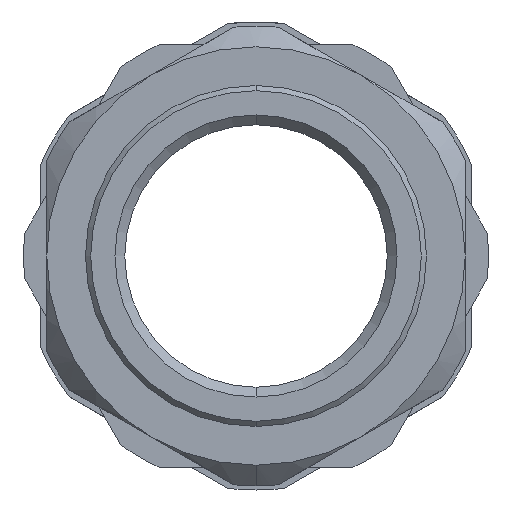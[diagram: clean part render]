
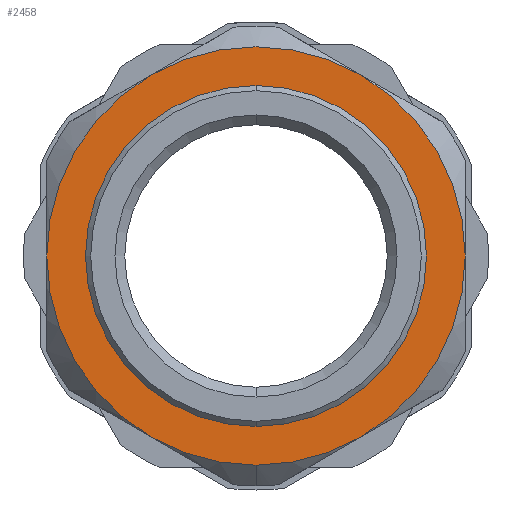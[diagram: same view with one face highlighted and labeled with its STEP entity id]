
A CAD part, front view. The second image highlights one B-rep face of the part: STEP entity #2458.
In plain terms, the highlighted planar face has unit normal (0, -1, 0).
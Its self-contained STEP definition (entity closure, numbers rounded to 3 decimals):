
#85 = VERTEX_POINT ( 'NONE', #425 ) ;
#275 = VERTEX_POINT ( 'NONE', #397 ) ;
#397 = CARTESIAN_POINT ( 'NONE',  ( 0., 1., -20.25 ) ) ;
#425 = CARTESIAN_POINT ( 'NONE',  ( 0., 1., -16.5 ) ) ;
#491 = CARTESIAN_POINT ( 'NONE',  ( 10.125, 1., -17.537 ) ) ;
#504 = CARTESIAN_POINT ( 'NONE',  ( 0., 1., 16.5 ) ) ;
#505 = CARTESIAN_POINT ( 'NONE',  ( -10.125, 1., 17.537 ) ) ;
#512 = CARTESIAN_POINT ( 'NONE',  ( 20.25, 1., 0. ) ) ;
#514 = CARTESIAN_POINT ( 'NONE',  ( -20.25, 1., 0. ) ) ;
#516 = CARTESIAN_POINT ( 'NONE',  ( -10.125, 1., -17.537 ) ) ;
#540 = CARTESIAN_POINT ( 'NONE',  ( 10.125, 1., 17.537 ) ) ;
#549 = VERTEX_POINT ( 'NONE', #540 ) ;
#556 = VERTEX_POINT ( 'NONE', #516 ) ;
#558 = VERTEX_POINT ( 'NONE', #514 ) ;
#560 = VERTEX_POINT ( 'NONE', #512 ) ;
#566 = VERTEX_POINT ( 'NONE', #505 ) ;
#567 = VERTEX_POINT ( 'NONE', #504 ) ;
#582 = VERTEX_POINT ( 'NONE', #491 ) ;
#700 = ORIENTED_EDGE ( 'NONE', *, *, #2383, .F. ) ;
#728 = ORIENTED_EDGE ( 'NONE', *, *, #2381, .T. ) ;
#733 = ORIENTED_EDGE ( 'NONE', *, *, #2382, .T. ) ;
#984 = ORIENTED_EDGE ( 'NONE', *, *, #2378, .T. ) ;
#1002 = EDGE_LOOP ( 'NONE', ( #1021, #700 ) ) ;
#1012 = ORIENTED_EDGE ( 'NONE', *, *, #2380, .T. ) ;
#1016 = ORIENTED_EDGE ( 'NONE', *, *, #2436, .T. ) ;
#1017 = ORIENTED_EDGE ( 'NONE', *, *, #2384, .T. ) ;
#1021 = ORIENTED_EDGE ( 'NONE', *, *, #2339, .F. ) ;
#1041 = ORIENTED_EDGE ( 'NONE', *, *, #2385, .T. ) ;
#1094 = EDGE_LOOP ( 'NONE', ( #733, #984, #728, #1012, #1017, #1016, #1041 ) ) ;
#1178 = AXIS2_PLACEMENT_3D ( 'NONE', #2149, #1941, #1767 ) ;
#1181 = AXIS2_PLACEMENT_3D ( 'NONE', #1764, #1769, #1766 ) ;
#1185 = AXIS2_PLACEMENT_3D ( 'NONE', #1757, #1753, #1752 ) ;
#1188 = AXIS2_PLACEMENT_3D ( 'NONE', #2168, #2151, #2160 ) ;
#1191 = AXIS2_PLACEMENT_3D ( 'NONE', #2157, #2154, #2163 ) ;
#1197 = AXIS2_PLACEMENT_3D ( 'NONE', #1937, #2173, #2172 ) ;
#1204 = AXIS2_PLACEMENT_3D ( 'NONE', #1755, #1930, #1750 ) ;
#1253 = AXIS2_PLACEMENT_3D ( 'NONE', #1466, #1487, #1490 ) ;
#1326 = AXIS2_PLACEMENT_3D ( 'NONE', #1916, #1917, #1918 ) ;
#1332 = FACE_BOUND ( 'NONE', #1002, .T. ) ;
#1333 = FACE_OUTER_BOUND ( 'NONE', #1094, .T. ) ;
#1368 = AXIS2_PLACEMENT_3D ( 'NONE', #2028, #2029, #2026 ) ;
#1466 = CARTESIAN_POINT ( 'NONE',  ( 0., 1., 0. ) ) ;
#1487 = DIRECTION ( 'NONE',  ( 0., -1., 0. ) ) ;
#1490 = DIRECTION ( 'NONE',  ( 0., 0., -1. ) ) ;
#1618 = CIRCLE ( 'NONE', #1368, 20.25 ) ;
#1645 = CIRCLE ( 'NONE', #1178, 20.25 ) ;
#1646 = CIRCLE ( 'NONE', #1181, 20.25 ) ;
#1647 = CIRCLE ( 'NONE', #1185, 16.5 ) ;
#1648 = CIRCLE ( 'NONE', #1204, 20.25 ) ;
#1649 = CIRCLE ( 'NONE', #1191, 20.25 ) ;
#1650 = CIRCLE ( 'NONE', #1188, 20.25 ) ;
#1651 = CIRCLE ( 'NONE', #1197, 20.25 ) ;
#1666 = CIRCLE ( 'NONE', #1253, 16.5 ) ;
#1750 = DIRECTION ( 'NONE',  ( 0., 0., -1. ) ) ;
#1752 = DIRECTION ( 'NONE',  ( 0., 0., -1. ) ) ;
#1753 = DIRECTION ( 'NONE',  ( 0., -1., 0. ) ) ;
#1755 = CARTESIAN_POINT ( 'NONE',  ( 0., 1., 0. ) ) ;
#1757 = CARTESIAN_POINT ( 'NONE',  ( 0., 1., 0. ) ) ;
#1764 = CARTESIAN_POINT ( 'NONE',  ( 0., 1., 0. ) ) ;
#1766 = DIRECTION ( 'NONE',  ( 0., 0., -1. ) ) ;
#1767 = DIRECTION ( 'NONE',  ( 0., 0., -1. ) ) ;
#1769 = DIRECTION ( 'NONE',  ( 0., -1., 0. ) ) ;
#1915 = PLANE ( 'NONE',  #1326 ) ;
#1916 = CARTESIAN_POINT ( 'NONE',  ( -22.25, 1., 0. ) ) ;
#1917 = DIRECTION ( 'NONE',  ( 0., 1., 0. ) ) ;
#1918 = DIRECTION ( 'NONE',  ( 0., 0., 1. ) ) ;
#1930 = DIRECTION ( 'NONE',  ( 0., -1., 0. ) ) ;
#1937 = CARTESIAN_POINT ( 'NONE',  ( 0., 1., 0. ) ) ;
#1941 = DIRECTION ( 'NONE',  ( 0., -1., 0. ) ) ;
#2026 = DIRECTION ( 'NONE',  ( 0., 0., -1. ) ) ;
#2028 = CARTESIAN_POINT ( 'NONE',  ( 0., 1., 0. ) ) ;
#2029 = DIRECTION ( 'NONE',  ( 0., -1., 0. ) ) ;
#2149 = CARTESIAN_POINT ( 'NONE',  ( 0., 1., 0. ) ) ;
#2151 = DIRECTION ( 'NONE',  ( 0., -1., 0. ) ) ;
#2154 = DIRECTION ( 'NONE',  ( 0., -1., 0. ) ) ;
#2157 = CARTESIAN_POINT ( 'NONE',  ( 0., 1., 0. ) ) ;
#2160 = DIRECTION ( 'NONE',  ( 0., 0., -1. ) ) ;
#2163 = DIRECTION ( 'NONE',  ( 0., 0., -1. ) ) ;
#2168 = CARTESIAN_POINT ( 'NONE',  ( 0., 1., 0. ) ) ;
#2172 = DIRECTION ( 'NONE',  ( 0., 0., -1. ) ) ;
#2173 = DIRECTION ( 'NONE',  ( 0., -1., 0. ) ) ;
#2339 = EDGE_CURVE ( 'NONE', #85, #567, #1666, .T. ) ;
#2378 = EDGE_CURVE ( 'NONE', #549, #566, #1651, .T. ) ;
#2380 = EDGE_CURVE ( 'NONE', #558, #556, #1650, .T. ) ;
#2381 = EDGE_CURVE ( 'NONE', #566, #558, #1649, .T. ) ;
#2382 = EDGE_CURVE ( 'NONE', #560, #549, #1648, .T. ) ;
#2383 = EDGE_CURVE ( 'NONE', #567, #85, #1647, .T. ) ;
#2384 = EDGE_CURVE ( 'NONE', #556, #275, #1646, .T. ) ;
#2385 = EDGE_CURVE ( 'NONE', #582, #560, #1645, .T. ) ;
#2436 = EDGE_CURVE ( 'NONE', #275, #582, #1618, .T. ) ;
#2458 = ADVANCED_FACE ( 'NONE', ( #1332, #1333 ), #1915, .F. ) ;
